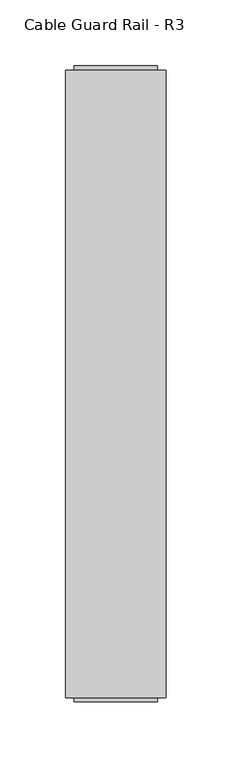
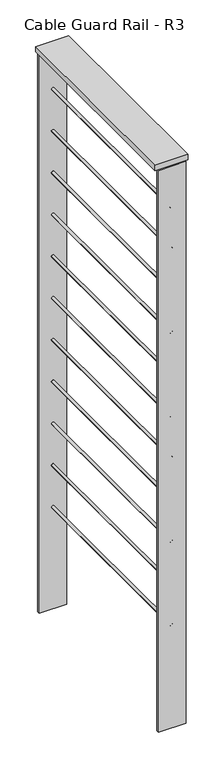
"""IFC4 building model written with IfcOpenShell, lengths in millimetres: railing geometry, Cable Guard Rail - R3."""

from ifc_helpers import new_model, si_unit, point, frame, frame_2d, origin, place, context, project, spatial, polyline, circle_curve, trimmed, segment, composite_curve, outline, extrude, source, transform, mapped, element, save


def cable_guard_rail_r3_b7d82ff1(model_context):
    return source(origin(), model_context, "Body", "SweptSolid", [
        extrude(outline(polyline([(40071.6390585, 182876.1191511), (39995.4390585, 182876.1191511), (39995.4390585, 183352.3691511), (40071.6390585, 183352.3691511), (40071.6390585, 182876.1191511)])), frame((0.0, 0.0, 294887.65), z_axis=(0.0, 0.0, 1.0), x_axis=(1.0, 0.0, 0.0)), (0.0, 0.0, 1.0), 12.7),
        extrude(outline(composite_curve([segment(trimmed(circle_curve(frame_2d((294786.05, 40033.5390585)), 3.175), [point((294786.05, 40030.3640585))], [point((294786.05, 40036.7140585))], False, "CARTESIAN"), True, "CONTINUOUS"), segment(trimmed(circle_curve(frame_2d((294786.05, 40033.5390585)), 3.175), [point((294786.05, 40036.7140585))], [point((294786.05, 40030.3640585))], False, "CARTESIAN"), True, "CONTINUOUS")], self_intersect=False)), frame((0.0, 182876.1191511, 0.0), z_axis=(0.0, 1.0, 0.0), x_axis=(0.0, 0.0, 1.0)), (0.0, 0.0, 1.0), 476.25),
        extrude(outline(composite_curve([segment(trimmed(circle_curve(frame_2d((294684.45, 40033.5390585)), 3.175), [point((294684.45, 40030.3640585))], [point((294684.45, 40036.7140585))], False, "CARTESIAN"), True, "CONTINUOUS"), segment(trimmed(circle_curve(frame_2d((294684.45, 40033.5390585)), 3.175), [point((294684.45, 40036.7140585))], [point((294684.45, 40030.3640585))], False, "CARTESIAN"), True, "CONTINUOUS")], self_intersect=False)), frame((0.0, 182876.1191511, 0.0), z_axis=(0.0, 1.0, 0.0), x_axis=(0.0, 0.0, 1.0)), (0.0, 0.0, 1.0), 476.25),
        extrude(outline(composite_curve([segment(trimmed(circle_curve(frame_2d((294582.85, 40033.5390585)), 3.175), [point((294582.85, 40030.3640585))], [point((294582.85, 40036.7140585))], False, "CARTESIAN"), True, "CONTINUOUS"), segment(trimmed(circle_curve(frame_2d((294582.85, 40033.5390585)), 3.175), [point((294582.85, 40036.7140585))], [point((294582.85, 40030.3640585))], False, "CARTESIAN"), True, "CONTINUOUS")], self_intersect=False)), frame((0.0, 182876.1191511, 0.0), z_axis=(0.0, 1.0, 0.0), x_axis=(0.0, 0.0, 1.0)), (0.0, 0.0, 1.0), 476.25),
        extrude(outline(composite_curve([segment(trimmed(circle_curve(frame_2d((294481.25, 40033.5390585)), 3.175), [point((294481.25, 40030.3640585))], [point((294481.25, 40036.7140585))], False, "CARTESIAN"), True, "CONTINUOUS"), segment(trimmed(circle_curve(frame_2d((294481.25, 40033.5390585)), 3.175), [point((294481.25, 40036.7140585))], [point((294481.25, 40030.3640585))], False, "CARTESIAN"), True, "CONTINUOUS")], self_intersect=False)), frame((0.0, 182876.1191511, 0.0), z_axis=(0.0, 1.0, 0.0), x_axis=(0.0, 0.0, 1.0)), (0.0, 0.0, 1.0), 476.25),
        extrude(outline(composite_curve([segment(trimmed(circle_curve(frame_2d((294379.65, 40033.5390585)), 3.175), [point((294379.65, 40030.3640585))], [point((294379.65, 40036.7140585))], False, "CARTESIAN"), True, "CONTINUOUS"), segment(trimmed(circle_curve(frame_2d((294379.65, 40033.5390585)), 3.175), [point((294379.65, 40036.7140585))], [point((294379.65, 40030.3640585))], False, "CARTESIAN"), True, "CONTINUOUS")], self_intersect=False)), frame((0.0, 182876.1191511, 0.0), z_axis=(0.0, 1.0, 0.0), x_axis=(0.0, 0.0, 1.0)), (0.0, 0.0, 1.0), 476.25),
        extrude(outline(composite_curve([segment(trimmed(circle_curve(frame_2d((294278.05, 40033.5390585)), 3.175), [point((294278.05, 40030.3640585))], [point((294278.05, 40036.7140585))], False, "CARTESIAN"), True, "CONTINUOUS"), segment(trimmed(circle_curve(frame_2d((294278.05, 40033.5390585)), 3.175), [point((294278.05, 40036.7140585))], [point((294278.05, 40030.3640585))], False, "CARTESIAN"), True, "CONTINUOUS")], self_intersect=False)), frame((0.0, 182876.1191511, 0.0), z_axis=(0.0, 1.0, 0.0), x_axis=(0.0, 0.0, 1.0)), (0.0, 0.0, 1.0), 476.25),
        extrude(outline(composite_curve([segment(trimmed(circle_curve(frame_2d((294176.45, 40033.5390585)), 3.175), [point((294176.45, 40030.3640585))], [point((294176.45, 40036.7140585))], False, "CARTESIAN"), True, "CONTINUOUS"), segment(trimmed(circle_curve(frame_2d((294176.45, 40033.5390585)), 3.175), [point((294176.45, 40036.7140585))], [point((294176.45, 40030.3640585))], False, "CARTESIAN"), True, "CONTINUOUS")], self_intersect=False)), frame((0.0, 182876.1191511, 0.0), z_axis=(0.0, 1.0, 0.0), x_axis=(0.0, 0.0, 1.0)), (0.0, 0.0, 1.0), 476.25),
        extrude(outline(composite_curve([segment(trimmed(circle_curve(frame_2d((294074.85, 40033.5390585)), 3.175), [point((294074.85, 40030.3640585))], [point((294074.85, 40036.7140585))], False, "CARTESIAN"), True, "CONTINUOUS"), segment(trimmed(circle_curve(frame_2d((294074.85, 40033.5390585)), 3.175), [point((294074.85, 40036.7140585))], [point((294074.85, 40030.3640585))], False, "CARTESIAN"), True, "CONTINUOUS")], self_intersect=False)), frame((0.0, 182876.1191511, 0.0), z_axis=(0.0, 1.0, 0.0), x_axis=(0.0, 0.0, 1.0)), (0.0, 0.0, 1.0), 476.25),
        extrude(outline(composite_curve([segment(trimmed(circle_curve(frame_2d((293973.25, 40033.5390585)), 3.175), [point((293973.25, 40030.3640585))], [point((293973.25, 40036.7140585))], False, "CARTESIAN"), True, "CONTINUOUS"), segment(trimmed(circle_curve(frame_2d((293973.25, 40033.5390585)), 3.175), [point((293973.25, 40036.7140585))], [point((293973.25, 40030.3640585))], False, "CARTESIAN"), True, "CONTINUOUS")], self_intersect=False)), frame((0.0, 182876.1191511, 0.0), z_axis=(0.0, 1.0, 0.0), x_axis=(0.0, 0.0, 1.0)), (0.0, 0.0, 1.0), 476.25),
        extrude(outline(composite_curve([segment(trimmed(circle_curve(frame_2d((293871.65, 40033.5390585)), 3.175), [point((293871.65, 40030.3640585))], [point((293871.65, 40036.7140585))], False, "CARTESIAN"), True, "CONTINUOUS"), segment(trimmed(circle_curve(frame_2d((293871.65, 40033.5390585)), 3.175), [point((293871.65, 40036.7140585))], [point((293871.65, 40030.3640585))], False, "CARTESIAN"), True, "CONTINUOUS")], self_intersect=False)), frame((0.0, 182876.1191511, 0.0), z_axis=(0.0, 1.0, 0.0), x_axis=(0.0, 0.0, 1.0)), (0.0, 0.0, 1.0), 476.25),
        extrude(outline(composite_curve([segment(trimmed(circle_curve(frame_2d((293770.05, 40033.5390585)), 3.175), [point((293770.05, 40030.3640585))], [point((293770.05, 40036.7140585))], False, "CARTESIAN"), True, "CONTINUOUS"), segment(trimmed(circle_curve(frame_2d((293770.05, 40033.5390585)), 3.175), [point((293770.05, 40036.7140585))], [point((293770.05, 40030.3640585))], False, "CARTESIAN"), True, "CONTINUOUS")], self_intersect=False)), frame((0.0, 182876.1191511, 0.0), z_axis=(0.0, 1.0, 0.0), x_axis=(0.0, 0.0, 1.0)), (0.0, 0.0, 1.0), 476.25),
        extrude(outline(polyline([(40001.7890585, 183349.1941511), (40001.7890585, 183355.5441511), (40065.2890585, 183355.5441511), (40065.2890585, 183349.1941511), (40001.7890585, 183349.1941511)])), frame((0.0, 0.0, 293522.4), z_axis=(0.0, 0.0, 1.0), x_axis=(1.0, 0.0, 0.0)), (0.0, 0.0, 1.0), 1365.25),
        extrude(outline(polyline([(40001.7890585, 182872.9441511), (40001.7890585, 182879.2941511), (40065.2890585, 182879.2941511), (40065.2890585, 182872.9441511), (40001.7890585, 182872.9441511)])), frame((0.0, 0.0, 293522.4), z_axis=(0.0, 0.0, 1.0), x_axis=(1.0, 0.0, 0.0)), (0.0, 0.0, 1.0), 1365.25),
    ])


if __name__ == "__main__":
    model = new_model("IFC4")
    model_context = context("Model", 3, world=origin())
    ifc_project = project(units=[si_unit("LENGTHUNIT", "METRE", prefix="MILLI")], contexts=[model_context])
    site = spatial("IfcSite", under=ifc_project)
    building = spatial("IfcBuilding", under=site)
    placement = place(None, origin())
    cable_guard_rail_r3_shape = cable_guard_rail_r3_b7d82ff1(model_context)
    element("IfcRailing", 1, ObjectType="Cable Guard Rail - R3", at=placement, inside=building, context=model_context, shape_type="MappedRepresentation", body=[
        mapped(cable_guard_rail_r3_shape, transform((0.0, 0.0, 0.0), x_axis=(1.0, 0.0, 0.0), y_axis=(0.0, 1.0, 0.0), z_axis=(0.0, 0.0, 1.0))),
    ])
    save(model, "model.ifc")
